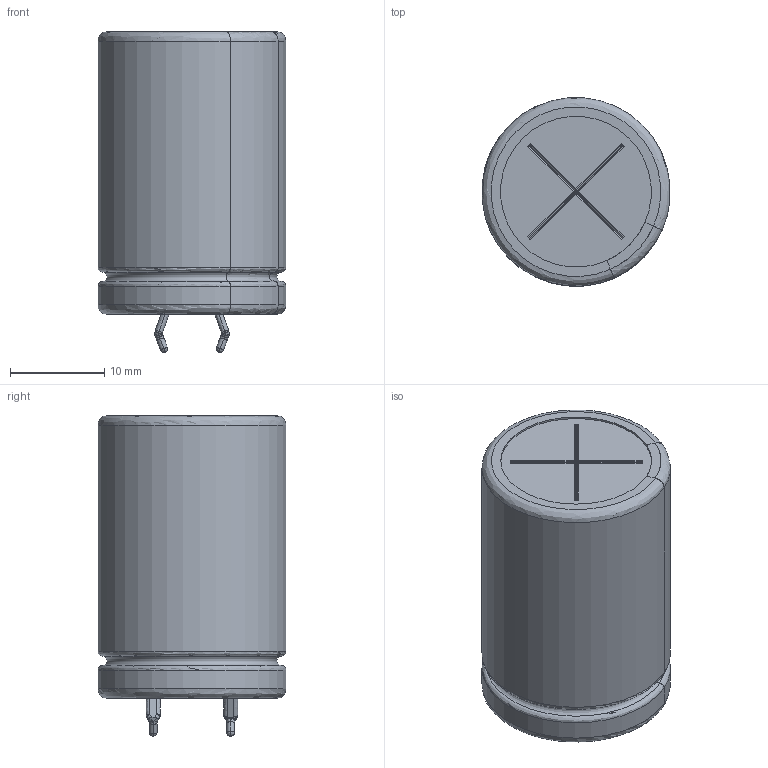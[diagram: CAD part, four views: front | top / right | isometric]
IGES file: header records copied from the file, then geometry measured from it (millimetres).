
Start section: JAMA-IS VERSION  1.0
Bounding box: 19.94 x 19.94 x 34.02 mm (x, y, z)
Surface area: 6834.9 mm2 (no closed solid volume)
Topology: 0 solids, 0 shells, 208 faces, 2162 edges, 2126 vertices
Faces by surface type: bspline 208
